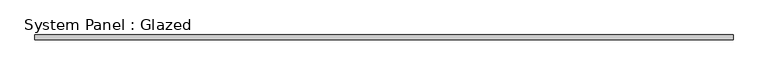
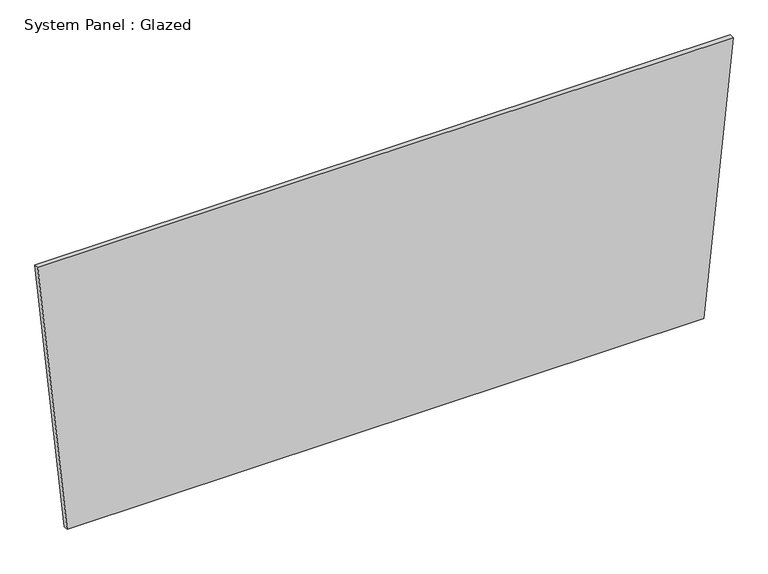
"""IFC4 building model written with IfcOpenShell, lengths in millimetres: plate geometry, System Panel : Glazed."""

from ifc_helpers import new_model, si_unit, frame, origin, place, context, project, spatial, polyline, outline, extrude, source, transform, mapped, element, save


def system_panel_glazed_cdd31af4(model_context):
    return source(origin(), model_context, "Body", "SweptSolid", [
        extrude(outline(polyline([(0.0, -1680.9410542), (0.0, 1680.9410542), (1516.0741974, 1836.1667867), (1516.0741974, -1836.1667867), (0.0, -1680.9410542)])), frame((0.0, 19.05, 0.0), z_axis=(0.0, 1.0, 0.0), x_axis=(0.0, 0.0, 1.0)), (0.0, 0.0, 1.0), 25.4),
    ])


if __name__ == "__main__":
    model = new_model("IFC4")
    model_context = context("Model", 3, world=origin())
    ifc_project = project(units=[si_unit("LENGTHUNIT", "METRE", prefix="MILLI")], contexts=[model_context])
    site = spatial("IfcSite", under=ifc_project)
    building = spatial("IfcBuilding", under=site)
    placement = place(None, origin())
    system_panel_glazed_shape = system_panel_glazed_cdd31af4(model_context)
    element("IfcPlate", 1, ObjectType="System Panel : Glazed", at=placement, inside=building, context=model_context, shape_type="MappedRepresentation", body=[
        mapped(system_panel_glazed_shape, transform((0.0, 0.0, 0.0), x_axis=(1.0, 0.0, 0.0), y_axis=(0.0, 1.0, 0.0), z_axis=(0.0, 0.0, 1.0))),
    ])
    save(model, "model.ifc")
